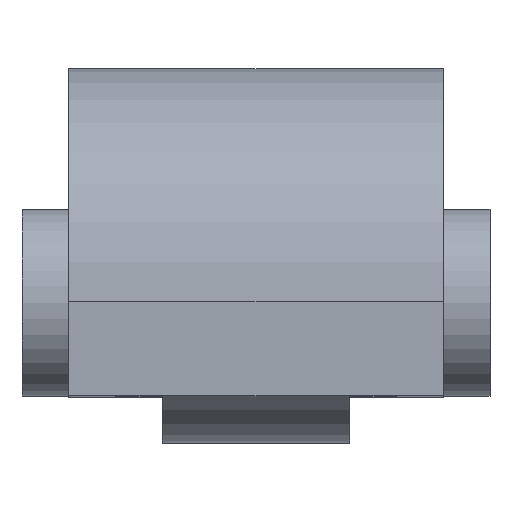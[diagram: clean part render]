
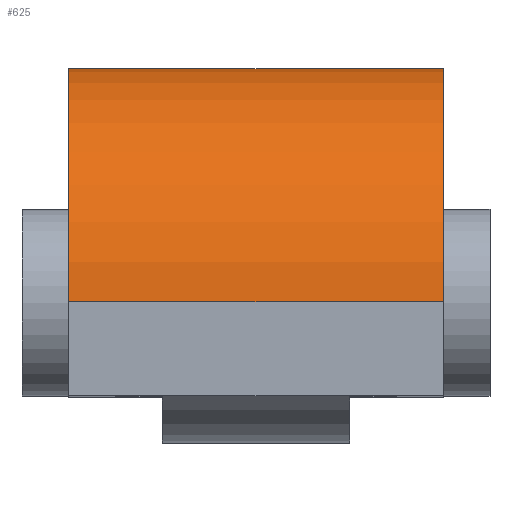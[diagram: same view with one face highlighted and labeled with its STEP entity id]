
A CAD part, top view. The second image highlights one B-rep face of the part: STEP entity #625.
In plain terms, the highlighted cylindrical face has radius 25 mm (diameter 50 mm), a partial arc.
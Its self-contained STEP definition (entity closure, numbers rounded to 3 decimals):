
#84=FACE_OUTER_BOUND('',#124,.T.);
#124=EDGE_LOOP('',(#496,#497,#498,#499));
#181=LINE('',#1093,#224);
#182=LINE('',#1097,#225);
#224=VECTOR('',#882,10.);
#225=VECTOR('',#887,10.);
#252=CIRCLE('',#742,25.);
#253=CIRCLE('',#745,25.);
#306=VERTEX_POINT('',#1079);
#307=VERTEX_POINT('',#1081);
#311=VERTEX_POINT('',#1091);
#312=VERTEX_POINT('',#1095);
#378=EDGE_CURVE('',#306,#307,#252,.T.);
#384=EDGE_CURVE('',#306,#311,#181,.T.);
#385=EDGE_CURVE('',#312,#311,#253,.T.);
#386=EDGE_CURVE('',#307,#312,#182,.T.);
#496=ORIENTED_EDGE('',*,*,#384,.T.);
#497=ORIENTED_EDGE('',*,*,#385,.F.);
#498=ORIENTED_EDGE('',*,*,#386,.F.);
#499=ORIENTED_EDGE('',*,*,#378,.F.);
#604=CYLINDRICAL_SURFACE('',#744,25.);
#625=ADVANCED_FACE('',(#84),#604,.T.);
#742=AXIS2_PLACEMENT_3D('',#1082,#873,#874);
#744=AXIS2_PLACEMENT_3D('',#1094,#883,#884);
#745=AXIS2_PLACEMENT_3D('',#1096,#885,#886);
#873=DIRECTION('center_axis',(-1.,0.,0.));
#874=DIRECTION('ref_axis',(0.,1.,0.));
#882=DIRECTION('',(1.,0.,0.));
#883=DIRECTION('center_axis',(1.,0.,0.));
#884=DIRECTION('ref_axis',(0.,1.,0.));
#885=DIRECTION('center_axis',(1.,0.,0.));
#886=DIRECTION('ref_axis',(0.,1.,0.));
#887=DIRECTION('',(1.,0.,0.));
#1079=CARTESIAN_POINT('',(-20.,0.,25.));
#1081=CARTESIAN_POINT('',(-20.,0.,-25.));
#1082=CARTESIAN_POINT('Origin',(-20.,0.,0.));
#1091=CARTESIAN_POINT('',(20.,0.,25.));
#1093=CARTESIAN_POINT('',(0.,0.,25.));
#1094=CARTESIAN_POINT('Origin',(0.,0.,0.));
#1095=CARTESIAN_POINT('',(20.,0.,-25.));
#1096=CARTESIAN_POINT('Origin',(20.,0.,0.));
#1097=CARTESIAN_POINT('',(0.,0.,-25.));
